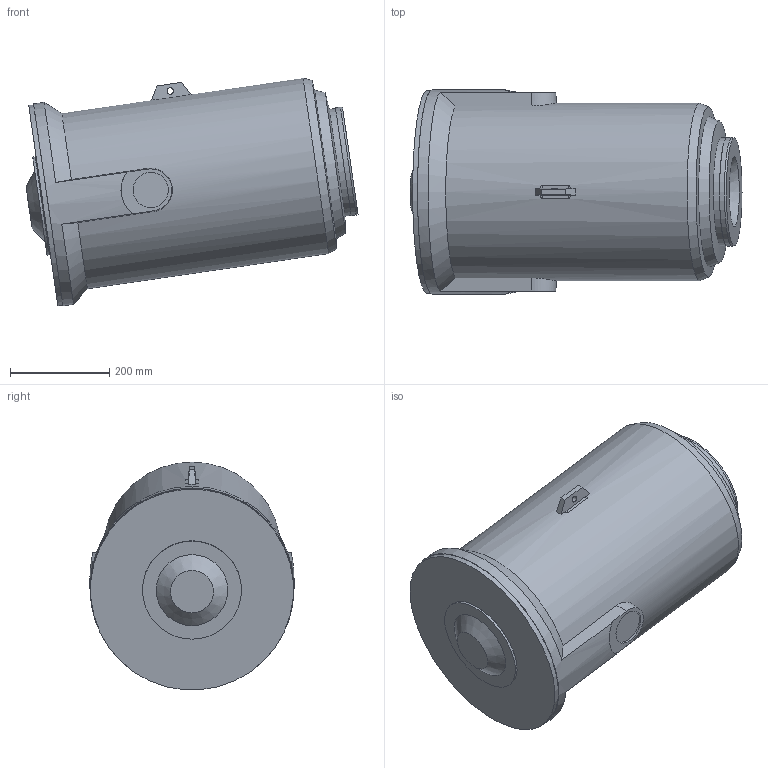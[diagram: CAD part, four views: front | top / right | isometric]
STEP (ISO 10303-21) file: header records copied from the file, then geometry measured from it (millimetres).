
FILE_DESCRIPTION (( 'STEP AP214' ), '1' );
FILE_NAME ('IRB6740-LID_270kg-280_OC_00_CYL_CAD.step', '2026-05-07T13:14:46', ( '' ), ( '' ), 'SwSTEP 2.0', 'SolidWorks 2024', '' );
FILE_SCHEMA (( 'AUTOMOTIVE_DESIGN' ));
Length unit declared in the file: millimetre
Products named in the file (1): IRB6740-LID_270kg-280_OC_00_CYL_CAD
Bounding box: 670.34 x 412 x 459.81 mm (x, y, z)
Volume: 61310544.5 mm3; surface area: 1080048.5 mm2
Topology: 1 solids, 1 shells, 54 faces, 123 edges, 81 vertices
Faces by surface type: plane 24, cylinder 18, cone 10, bspline 2
Full cylindrical faces by diameter (mm): 13 x1, 60 x1, 71 x2, 94 x1, 194 x1, 200 x1, 218 x1, 220 x1, 358 x1, 410 x1, 412 x1
Entity records: 2012 total; most frequent: CARTESIAN_POINT 871, DIRECTION 210, ORIENTED_EDGE 192, EDGE_CURVE 96, AXIS2_PLACEMENT_3D 87, EDGE_LOOP 86, VERTEX_POINT 74, FACE_OUTER_BOUND 66
